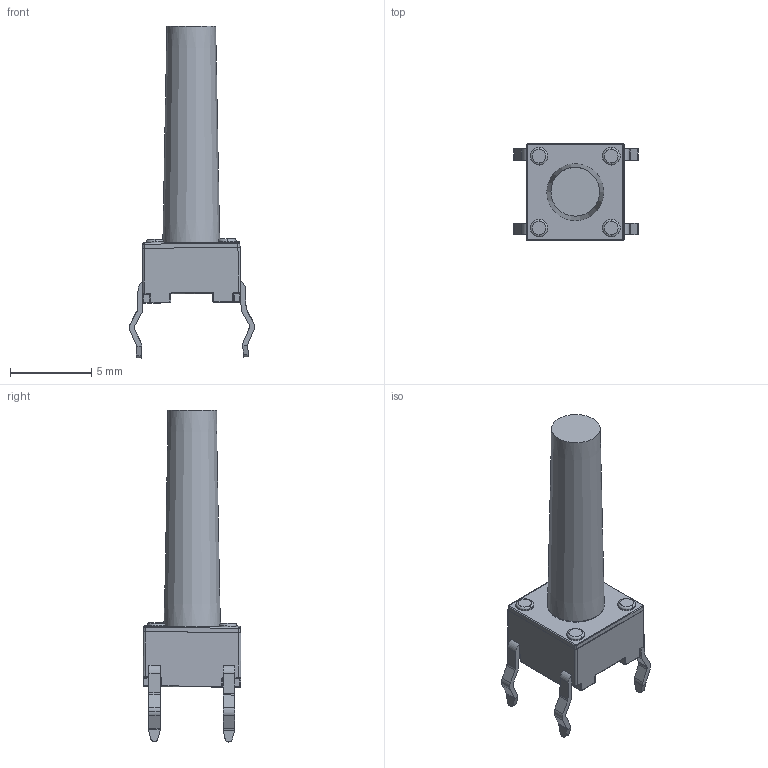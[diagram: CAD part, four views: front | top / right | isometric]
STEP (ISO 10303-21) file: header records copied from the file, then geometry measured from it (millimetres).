
FILE_DESCRIPTION(('FreeCAD Model'),'2;1');
FILE_NAME('C:/Users/Metaltex-99/Desktop/A06/A06/A06-17.0.stp', '2021-08-13T15:17:19',('Engenharia Metaltex'),('Metaltex'), 'Open CASCADE STEP processor 7.3','FreeCAD','Unknown');
FILE_SCHEMA(('AUTOMOTIVE_DESIGN { 1 0 10303 214 1 1 1 1 }'));
Length unit declared in the file: millimetre
Products named in the file (3): A06-17.0; Cilindro; Base
Assembly tree (2 placements, depth 2):
  A06-17.0
    Cilindro
    Base
Bounding box: 7.69 x 6.03 x 20.44 mm (x, y, z)
Volume: 236.5 mm3; surface area: 353.5 mm2
Topology: 2 solids, 2 shells, 294 faces, 716 edges, 408 vertices
Faces by surface type: cylinder 139, plane 90, torus 38, sphere 24, revolution 2, cone 1
Full cylindrical faces by diameter (mm): 3.46 x1
Entity records: 20696 total; most frequent: CARTESIAN_POINT 4354, DIRECTION 2863, LINE 1523, VECTOR 1523, ORIENTED_EDGE 1384, PCURVE 1384, DEFINITIONAL_REPRESENTATION 1384, EDGE_CURVE 692
